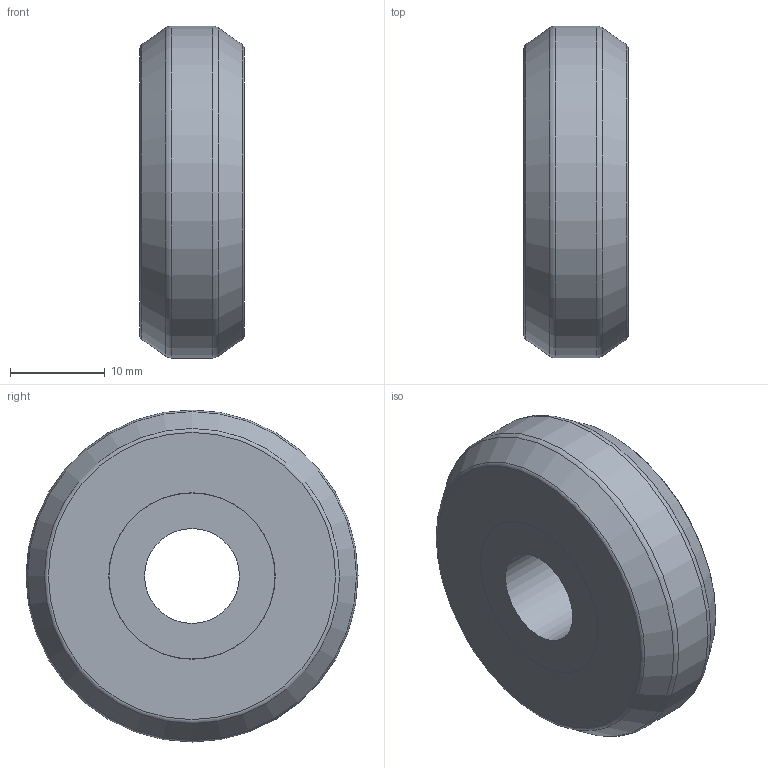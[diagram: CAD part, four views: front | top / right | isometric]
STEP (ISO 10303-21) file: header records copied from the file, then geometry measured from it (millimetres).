
FILE_DESCRIPTION( ( 'STEP AP203' ), '1' );
FILE_NAME( 'C:/Temp/Ganter_Step_05_03_2020/data/3_8/gn2426/Track GN 2426-43-B-2RS.stp', '2020-03-12T15:07:22', ( 'License CC BY-ND 4.0' ), ( 'CADENAS' ), ' ', 'PARTsolutions', ' ' );
FILE_SCHEMA( ( 'CONFIG_CONTROL_DESIGN' ) );
Length unit declared in the file: millimetre
Products named in the file (1): _Track GN 2426-43-B-2RS
Bounding box: 11 x 35 x 35 mm (x, y, z)
Volume: 9049.9 mm3; surface area: 2977.4 mm2
Topology: 1 solids, 1 shells, 18 faces, 30 edges, 18 vertices
Faces by surface type: plane 6, cylinder 6, torus 4, cone 2
Full cylindrical faces by diameter (mm): 10 x1, 17.5 x2, 17.54 x2, 35 x1
Entity records: 412 total; most frequent: DIRECTION 74, CARTESIAN_POINT 55, AXIS2_PLACEMENT_3D 37, EDGE_LOOP 36, ORIENTED_EDGE 36, FACE_OUTER_BOUND 28, ADVANCED_FACE 18, EDGE_CURVE 18
